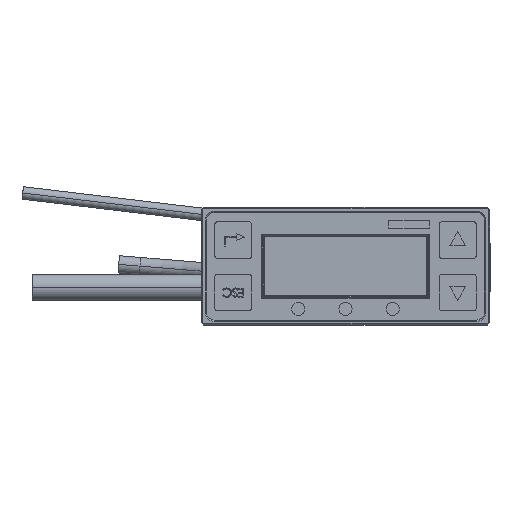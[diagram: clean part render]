
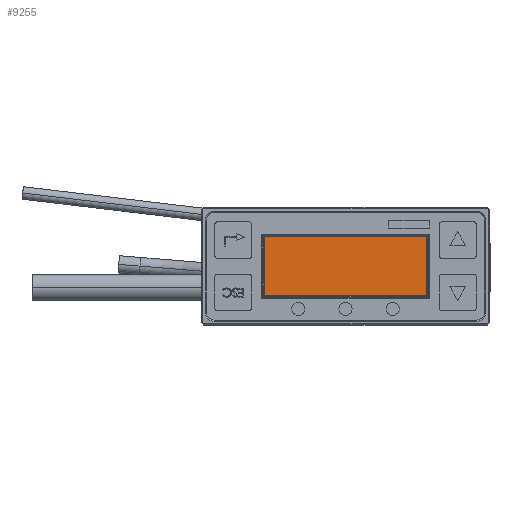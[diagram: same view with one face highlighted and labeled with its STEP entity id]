
A CAD part, front view. The second image highlights one B-rep face of the part: STEP entity #9255.
In plain terms, the highlighted planar face has unit normal (0, -1, 0).
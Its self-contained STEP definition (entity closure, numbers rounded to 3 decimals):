
#9234 = ORIENTED_EDGE ( 'NONE', *, *, #9235, .T. ) ;
#9235 = EDGE_CURVE ( 'NONE', #9263, #9236, #49878, .T. ) ;
#9236 = VERTEX_POINT ( 'NONE', #49874 ) ;
#9239 = ORIENTED_EDGE ( 'NONE', *, *, #9240, .T. ) ;
#9240 = EDGE_CURVE ( 'NONE', #9236, #9241, #49869, .T. ) ;
#9241 = VERTEX_POINT ( 'NONE', #49864 ) ;
#9242 = ORIENTED_EDGE ( 'NONE', *, *, #9243, .T. ) ;
#9243 = EDGE_CURVE ( 'NONE', #9241, #9244, #49863, .T. ) ;
#9244 = VERTEX_POINT ( 'NONE', #49913 ) ;
#9245 = ORIENTED_EDGE ( 'NONE', *, *, #9246, .T. ) ;
#9246 = EDGE_CURVE ( 'NONE', #9244, #9247, #49912, .T. ) ;
#9247 = VERTEX_POINT ( 'NONE', #49907 ) ;
#9248 = ORIENTED_EDGE ( 'NONE', *, *, #9249, .T. ) ;
#9249 = EDGE_CURVE ( 'NONE', #9247, #9250, #49906, .T. ) ;
#9250 = VERTEX_POINT ( 'NONE', #49902 ) ;
#9255 = ADVANCED_FACE ( 'NONE', ( #49901 ), #49946, .T. ) ;
#9256 = EDGE_LOOP ( 'NONE', ( #9257, #9261, #9234, #9239, #9242, #9245, #9248, #9302 ) ) ;
#9257 = ORIENTED_EDGE ( 'NONE', *, *, #9258, .T. ) ;
#9258 = EDGE_CURVE ( 'NONE', #9259, #9260, #49941, .T. ) ;
#9259 = VERTEX_POINT ( 'NONE', #49937 ) ;
#9260 = VERTEX_POINT ( 'NONE', #49936 ) ;
#9261 = ORIENTED_EDGE ( 'NONE', *, *, #9262, .T. ) ;
#9262 = EDGE_CURVE ( 'NONE', #9260, #9263, #49935, .T. ) ;
#9263 = VERTEX_POINT ( 'NONE', #49930 ) ;
#9302 = ORIENTED_EDGE ( 'NONE', *, *, #9303, .T. ) ;
#9303 = EDGE_CURVE ( 'NONE', #9250, #9259, #50044, .T. ) ;
#49863 = LINE ( 'NONE', #49916, #49915 ) ;
#49864 = CARTESIAN_POINT ( 'NONE',  ( 31.3, -99., 11.5 ) ) ;
#49865 = DIRECTION ( 'NONE',  ( 0., 0., -1. ) ) ;
#49866 = DIRECTION ( 'NONE',  ( 0., -1., 0. ) ) ;
#49867 = CARTESIAN_POINT ( 'NONE',  ( 30.8, -99., 11.5 ) ) ;
#49868 = AXIS2_PLACEMENT_3D ( 'NONE', #49867, #49866, #49865 ) ;
#49869 = CIRCLE ( 'NONE', #49868, 0.5 ) ;
#49874 = CARTESIAN_POINT ( 'NONE',  ( 30.8, -99., 11. ) ) ;
#49875 = DIRECTION ( 'NONE',  ( 1., 0., 0. ) ) ;
#49876 = VECTOR ( 'NONE', #49875, 1000. ) ;
#49877 = CARTESIAN_POINT ( 'NONE',  ( -30.8, -99., 11. ) ) ;
#49878 = LINE ( 'NONE', #49877, #49876 ) ;
#49901 = FACE_OUTER_BOUND ( 'NONE', #9256, .T. ) ;
#49902 = CARTESIAN_POINT ( 'NONE',  ( -30.8, -99., 34. ) ) ;
#49903 = DIRECTION ( 'NONE',  ( -1., 0., 0. ) ) ;
#49904 = VECTOR ( 'NONE', #49903, 1000. ) ;
#49905 = CARTESIAN_POINT ( 'NONE',  ( 30.8, -99., 34. ) ) ;
#49906 = LINE ( 'NONE', #49905, #49904 ) ;
#49907 = CARTESIAN_POINT ( 'NONE',  ( 30.8, -99., 34. ) ) ;
#49908 = DIRECTION ( 'NONE',  ( 0., 0., -1. ) ) ;
#49909 = DIRECTION ( 'NONE',  ( 0., -1., 0. ) ) ;
#49910 = CARTESIAN_POINT ( 'NONE',  ( 30.8, -99., 33.5 ) ) ;
#49911 = AXIS2_PLACEMENT_3D ( 'NONE', #49910, #49909, #49908 ) ;
#49912 = CIRCLE ( 'NONE', #49911, 0.5 ) ;
#49913 = CARTESIAN_POINT ( 'NONE',  ( 31.3, -99., 33.5 ) ) ;
#49914 = DIRECTION ( 'NONE',  ( 0., 0., 1. ) ) ;
#49915 = VECTOR ( 'NONE', #49914, 1000. ) ;
#49916 = CARTESIAN_POINT ( 'NONE',  ( 31.3, -99., 11.5 ) ) ;
#49930 = CARTESIAN_POINT ( 'NONE',  ( -30.8, -99., 11. ) ) ;
#49931 = DIRECTION ( 'NONE',  ( 0., 0., -1. ) ) ;
#49932 = DIRECTION ( 'NONE',  ( 0., -1., 0. ) ) ;
#49933 = CARTESIAN_POINT ( 'NONE',  ( -30.8, -99., 11.5 ) ) ;
#49934 = AXIS2_PLACEMENT_3D ( 'NONE', #49933, #49932, #49931 ) ;
#49935 = CIRCLE ( 'NONE', #49934, 0.5 ) ;
#49936 = CARTESIAN_POINT ( 'NONE',  ( -31.3, -99., 11.5 ) ) ;
#49937 = CARTESIAN_POINT ( 'NONE',  ( -31.3, -99., 33.5 ) ) ;
#49938 = DIRECTION ( 'NONE',  ( 0., 0., -1. ) ) ;
#49939 = VECTOR ( 'NONE', #49938, 1000. ) ;
#49940 = CARTESIAN_POINT ( 'NONE',  ( -31.3, -99., 33.5 ) ) ;
#49941 = LINE ( 'NONE', #49940, #49939 ) ;
#49942 = DIRECTION ( 'NONE',  ( 0., 0., -1. ) ) ;
#49943 = DIRECTION ( 'NONE',  ( 0., -1., 0. ) ) ;
#49944 = CARTESIAN_POINT ( 'NONE',  ( 0., -99., 22.5 ) ) ;
#49945 = AXIS2_PLACEMENT_3D ( 'NONE', #49944, #49943, #49942 ) ;
#49946 = PLANE ( 'NONE',  #49945 ) ;
#50040 = DIRECTION ( 'NONE',  ( 0., 0., -1. ) ) ;
#50041 = DIRECTION ( 'NONE',  ( 0., -1., 0. ) ) ;
#50042 = CARTESIAN_POINT ( 'NONE',  ( -30.8, -99., 33.5 ) ) ;
#50043 = AXIS2_PLACEMENT_3D ( 'NONE', #50042, #50041, #50040 ) ;
#50044 = CIRCLE ( 'NONE', #50043, 0.5 ) ;
